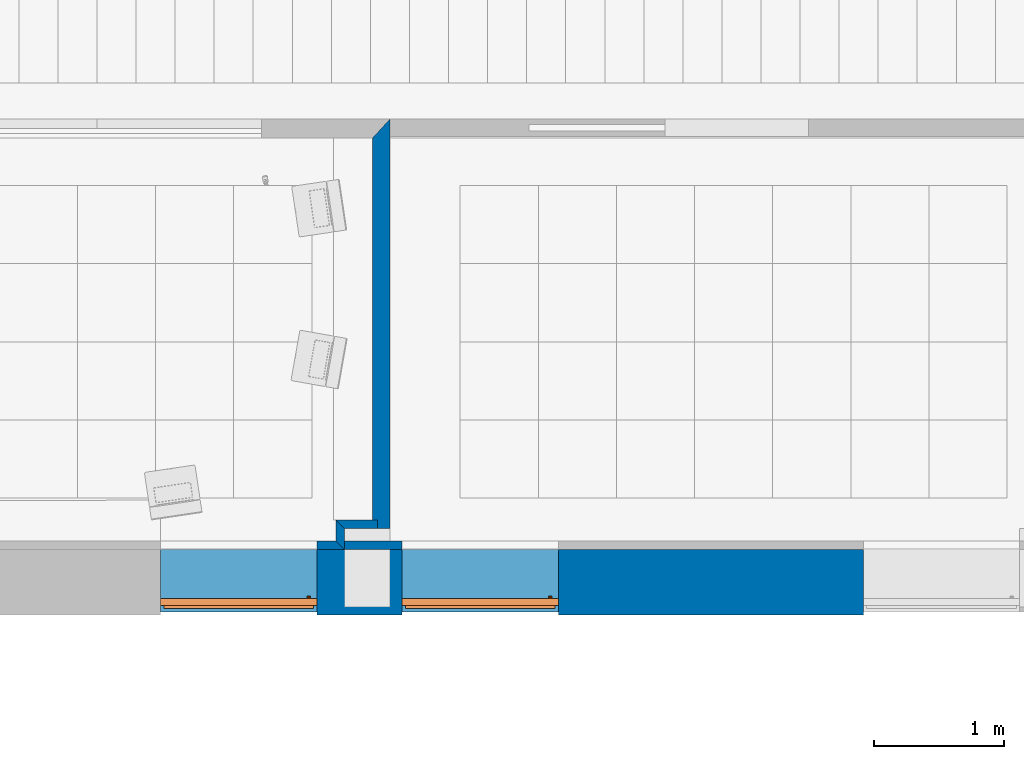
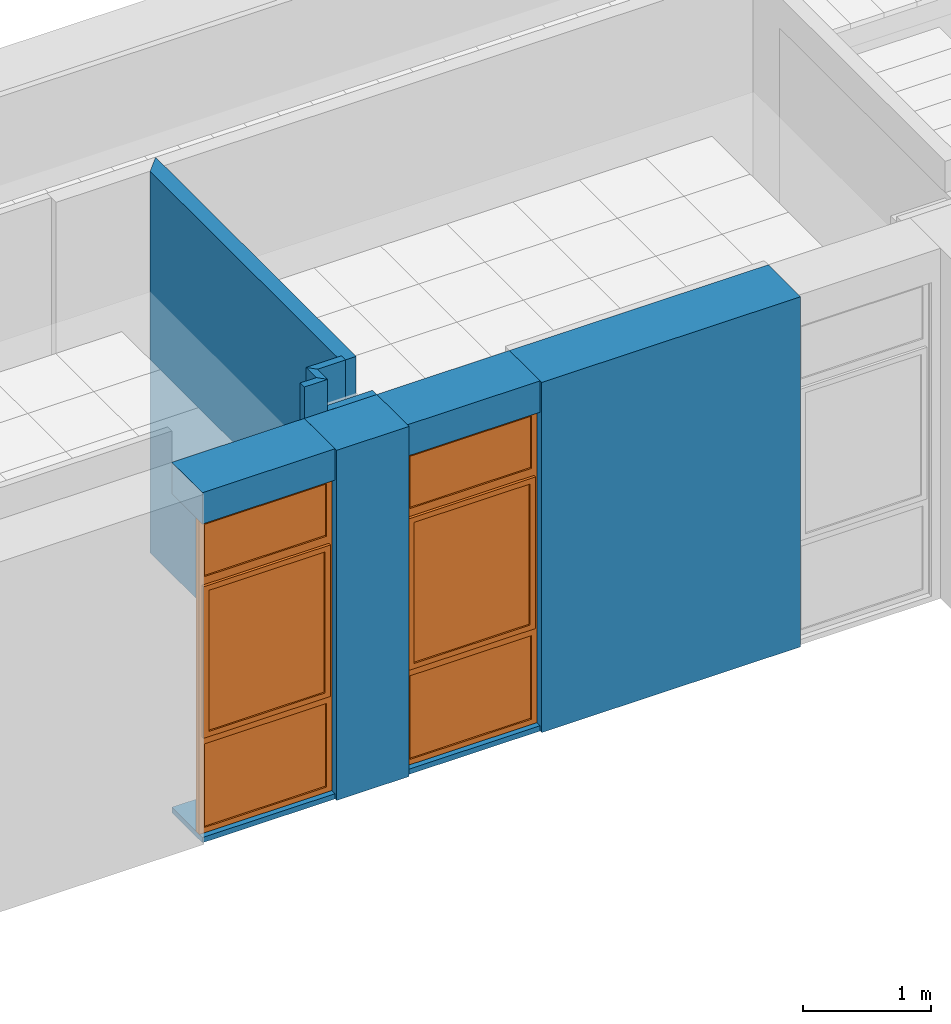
# One storey, part 38 of 60: 9 walls, 2 proxies, 2 openings.
"""IFC2X3 building model written with IfcOpenShell, lengths in millimetres."""

from ifc_helpers import new_model, entity, si_unit, converted_unit, derived_unit, money_unit, direction, frame, origin_with_axes, origin_2d_with_axis, place, context, subcontext, project, spatial, polyline, rectangle, outline, extrude, open_shell, faceted_brep, surface_model, source, transform, mapped, material, layer, layer_set, layer_usage, type_object, element, fill, save


model = new_model("IFC2X3")

# Units and contexts
model_context = context("Model", 3, precision=0.01, world=origin_with_axes(), true_north=direction((0.0, 1.0)))
body_context = subcontext(model_context, "Body", "Model", "MODEL_VIEW")
ifc_project = project(units=[si_unit("LENGTHUNIT", "METRE", prefix="MILLI"), si_unit("AREAUNIT", "SQUARE_METRE"), si_unit("VOLUMEUNIT", "CUBIC_METRE"), converted_unit("PLANEANGLEUNIT", "DEGREE", entity("IfcPlaneAngleMeasure", 0.0174532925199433), si_unit("PLANEANGLEUNIT", "RADIAN"), dimensions=[0, 0, 0, 0, 0, 0, 0]), money_unit("USD"), converted_unit("TIMEUNIT", "Year", entity("IfcTimeMeasure", 31557600.0), si_unit("TIMEUNIT", "SECOND"), dimensions=[0, 0, 1, 0, 0, 0, 0]), si_unit("MASSUNIT", "GRAM", prefix="KILO"), si_unit("THERMODYNAMICTEMPERATUREUNIT", "DEGREE_CELSIUS"), si_unit("LUMINOUSINTENSITYUNIT", "LUMEN"), si_unit("ENERGYUNIT", "JOULE", prefix="MEGA"), derived_unit("THERMALCONDUCTANCEUNIT", [(si_unit("POWERUNIT", "WATT"), 1), (si_unit("LENGTHUNIT", "METRE"), -1), (si_unit("THERMODYNAMICTEMPERATUREUNIT", "KELVIN"), -1)]), derived_unit("SPECIFICHEATCAPACITYUNIT", [(si_unit("ENERGYUNIT", "JOULE"), 1), (si_unit("MASSUNIT", "GRAM", prefix="KILO"), -1), (si_unit("THERMODYNAMICTEMPERATUREUNIT", "KELVIN"), -1)]), derived_unit("MASSDENSITYUNIT", [(si_unit("MASSUNIT", "GRAM", prefix="KILO"), 1), (si_unit("VOLUMEUNIT", "CUBIC_METRE"), -1)])], contexts=[model_context])

# Site, building, storey
site_placement = place(None, origin_with_axes())
site = spatial("IfcSite", under=ifc_project, at=site_placement, Name="Sitio", CompositionType="ELEMENT")
building_placement = place(site_placement, origin_with_axes())
building = spatial("IfcBuilding", under=site, at=building_placement, Name="Construcción", CompositionType="ELEMENT")
storey_placement = place(building_placement, frame((0.0, 0.0, 3650.0), z_axis=(0.0, 0.0, 1.0), x_axis=(1.0, 0.0, 0.0)))
storey = spatial("IfcBuildingStorey", under=building, at=storey_placement, Name="PLANTA 2ª", CompositionType="ELEMENT", Elevation=3650.0)

# Wall, opening, proxy
ifc_material_1 = material(Name="ARQ_AM246_Arrebossat_De_Guix")
ifc_layer_1 = layer(ifc_material_1, 10.0, ventilated="UNKNOWN")
ifc_material_2 = material(Name="ARQ_CE217_Gero")
ifc_layer_2 = layer(ifc_material_2, 120.0, ventilated="UNKNOWN")
ifc_material_3 = material(Name="ARQ_AI031_Aillament_Poliestireno expandido EPS")
ifc_layer_3 = layer(ifc_material_3, 120.0, ventilated="UNKNOWN")
ifc_material_4 = material(Name="ARQ_CE218_Ceramic")
ifc_layer_4 = layer(ifc_material_4, 220.0, ventilated="UNKNOWN")
ifc_layer_5 = layer(ifc_material_1, 10.0, ventilated="UNKNOWN")
ifc_layer_set_1 = layer_set([ifc_layer_1, ifc_layer_2, ifc_layer_3, ifc_layer_4, ifc_layer_5], Name="façana pati CR2 (ampit)")
ifc_layer_usage_1 = layer_usage(ifc_layer_set_1, "AXIS2", "POSITIVE", -480.0)
wall_type_1 = type_object("IfcWallType", Name="façana pati CR2 (ampit) 480", PredefinedType="NOTDEFINED")
wall_1_placement = place(storey_placement, frame((-6925.999673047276, -1193.975823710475, 0.0), z_axis=(0.0, 0.0, 1.0), x_axis=(1.0, 0.0, 0.0)))
wall_1 = element("IfcWallStandardCase", 1, at=wall_1_placement, inside=storey, type_object=wall_type_1, material=ifc_layer_usage_1, Name="MS-200", context=body_context, shape_type="SweptSolid", body=[
    extrude(outline(polyline([(0.0, -480.0), (1199.999999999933, -480.0), (1199.999999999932, 0.0), (0.0, 0.0), (0.0, -480.0)])), origin_with_axes(), (0.0, 0.0, 1.0), 3350.0),
])
opening_1_placement = place(wall_1_placement, frame((599.9999999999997, 0.0, 49.99999999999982), z_axis=(0.0, 0.0, 1.0), x_axis=(1.0, 0.0, 0.0)))
opening_1 = element("IfcOpeningElement", 2, at=opening_1_placement, cuts=wall_1, Name="F01", context=body_context, shape_type="SweptSolid", body=[
    extrude(rectangle(XDim=1199.999999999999, YDim=3000.0, at=origin_2d_with_axis()), frame((0.0, -429.9999999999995, 1500.0), z_axis=(0.0, -1.0, 0.0), x_axis=(-1.0, 0.0, 0.0)), (0.0, 0.0, -1.0), 909.9999999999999),
    extrude(rectangle(XDim=1199.999999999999, YDim=3000.0, at=origin_2d_with_axis()), frame((0.0, -429.9999999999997, 1500.0), z_axis=(0.0, 1.0, 0.0), x_axis=(-1.0, 0.0, 0.0)), (0.0, 0.0, -1.0), 530.0),
])
building_element_proxy_type = type_object("IfcBuildingElementProxyType", Name="Ventana Vertical Multi-Faja 27", PredefinedType="NOTDEFINED")
shared_shape = source(origin_with_axes(), body_context, "Body", "SurfaceModel", [
    faceted_brep([(-575.0, 0.0, 925.0), (-549.9999999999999, 0.0, 925.0), (-549.9999999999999, 0.0, 850.0), (-549.9999999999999, 0.0, 50.00000000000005), (-600.0, 0.0, 50.00000000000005), (-600.0, 0.0, 2950.0), (-549.9999999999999, 0.0, 2950.0), (-549.9999999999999, 0.0, 2450.0), (-549.9999999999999, 0.0, 2375.0), (-575.0, 0.0, 2375.0), (-575.0, -25.00000000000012, 925.0), (-549.9999999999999, -25.00000000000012, 925.0), (-549.9999999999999, -25.00000000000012, 950.0000000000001), (-549.9999999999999, -50.00000000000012, 950.0000000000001), (-549.9999999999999, -50.00000000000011, 850.0), (-549.9999999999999, -50.00000000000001, 50.00000000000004), (-600.0, -50.00000000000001, 50.00000000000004), (-600.0, -50.00000000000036, 2950.0), (-549.9999999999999, -50.00000000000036, 2950.0), (-549.9999999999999, -50.0000000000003, 2450.0), (-550.0, -25.00000000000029, 2375.0), (-549.9999999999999, -50.00000000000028, 2350.0), (-549.9999999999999, -25.00000000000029, 2350.0), (-575.0, -25.00000000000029, 2375.0)], [[[0, 1, 2, 3, 4, 5, 6, 7, 8, 9]], [[0, 10, 11, 1]], [[11, 12, 13, 14, 2, 1]], [[3, 2, 14, 15]], [[4, 3, 15, 16]], [[5, 4, 16, 17]], [[6, 5, 17, 18]], [[7, 6, 18, 19]], [[20, 8, 7, 19, 21, 22]], [[20, 23, 9, 8]], [[9, 23, 10, 0]], [[22, 12, 11, 10, 23, 20]], [[22, 21, 13, 12]], [[17, 16, 15, 14, 13, 21, 19, 18]]]),
    faceted_brep([(575.0, 0.0, 925.0), (575.0, 0.0, 2375.0), (549.9999999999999, 0.0, 2375.0), (549.9999999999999, 0.0, 2450.0), (549.9999999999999, 0.0, 2950.0), (600.0, 0.0, 2950.0), (600.0, 0.0, 50.00000000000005), (549.9999999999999, 0.0, 50.00000000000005), (549.9999999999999, 0.0, 850.0), (549.9999999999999, 0.0, 925.0), (575.0, -25.00000000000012, 925.0), (575.0, -25.00000000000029, 2375.0), (549.9999999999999, -25.00000000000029, 2375.0), (549.9999999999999, -25.00000000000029, 2350.0), (549.9999999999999, -50.00000000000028, 2350.0), (549.9999999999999, -50.0000000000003, 2450.0), (549.9999999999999, -50.00000000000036, 2950.0), (600.0, -50.00000000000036, 2950.0), (600.0, -50.00000000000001, 50.00000000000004), (549.9999999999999, -50.00000000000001, 50.00000000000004), (549.9999999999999, -50.00000000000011, 850.0), (550.0, -25.00000000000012, 925.0), (549.9999999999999, -50.00000000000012, 950.0000000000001), (549.9999999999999, -25.00000000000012, 950.0000000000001)], [[[0, 1, 2, 3, 4, 5, 6, 7, 8, 9]], [[0, 10, 11, 1]], [[1, 11, 12, 2]], [[12, 13, 14, 15, 3, 2]], [[4, 3, 15, 16]], [[5, 4, 16, 17]], [[6, 5, 17, 18]], [[7, 6, 18, 19]], [[8, 7, 19, 20]], [[21, 9, 8, 20, 22, 23]], [[9, 21, 10, 0]], [[12, 11, 10, 21, 23, 13]], [[23, 22, 14, 13]], [[14, 22, 20, 19, 18, 17, 16, 15]]]),
    faceted_brep([(-549.9999999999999, -25.00000000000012, 950.0000000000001), (-549.9999999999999, -50.00000000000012, 950.0000000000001), (549.9999999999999, -50.00000000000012, 950.0000000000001), (549.9999999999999, -25.00000000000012, 950.0000000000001), (-549.9999999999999, -25.00000000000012, 925.0), (-549.9999999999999, 0.0, 925.0), (-549.9999999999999, 0.0, 850.0), (-549.9999999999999, -50.00000000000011, 850.0), (549.9999999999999, -50.00000000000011, 850.0), (550.0, -25.00000000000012, 925.0), (549.9999999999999, 0.0, 850.0), (549.9999999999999, 0.0, 925.0)], [[[0, 1, 2, 3]], [[4, 5, 6, 7, 1, 0]], [[1, 7, 8, 2]], [[9, 3, 2, 8, 10, 11]], [[9, 4, 0, 3]], [[5, 4, 9, 11]], [[11, 10, 6, 5]], [[6, 10, 8, 7]]]),
    faceted_brep([(-549.9999999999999, 0.0, 2375.0), (-549.9999999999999, 0.0, 2450.0), (549.9999999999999, 0.0, 2450.0), (549.9999999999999, 0.0, 2375.0), (-550.0, -25.00000000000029, 2375.0), (-549.9999999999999, -25.00000000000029, 2350.0), (-549.9999999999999, -50.00000000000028, 2350.0), (-549.9999999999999, -50.0000000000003, 2450.0), (549.9999999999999, -50.0000000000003, 2450.0), (549.9999999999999, -25.00000000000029, 2375.0), (549.9999999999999, -50.00000000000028, 2350.0), (549.9999999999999, -25.00000000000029, 2350.0)], [[[0, 1, 2, 3]], [[4, 5, 6, 7, 1, 0]], [[2, 1, 7, 8]], [[9, 3, 2, 8, 10, 11]], [[9, 4, 0, 3]], [[11, 5, 4, 9]], [[11, 10, 6, 5]], [[7, 6, 10, 8]]]),
    faceted_brep([(549.9999999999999, -50.00000000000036, 2950.0), (549.9999999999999, 0.0, 2950.0), (600.0, 0.0, 2950.0), (600.0, -50.00000000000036, 2950.0), (-549.9999999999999, -50.00000000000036, 2950.0), (-549.9999999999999, 0.0, 2950.0), (-600.0, 0.0, 2950.0), (-600.0, 0.0, 3000.0), (600.0, 0.0, 3000.0), (600.0, -50.00000000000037, 3000.0), (-600.0, -50.00000000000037, 3000.0), (-600.0, -50.00000000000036, 2950.0)], [[[0, 1, 2, 3]], [[4, 5, 1, 0]], [[1, 5, 6, 7, 8, 2]], [[3, 2, 8, 9]], [[0, 3, 9, 10, 11, 4]], [[11, 6, 5, 4]], [[10, 7, 6, 11]], [[9, 8, 7, 10]]]),
    faceted_brep([(-549.9999999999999, -50.00000000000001, 50.0), (-549.9999999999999, 0.0, 50.00000000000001), (-600.0, 0.0, 50.00000000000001), (-600.0, -50.00000000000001, 50.0), (549.9999999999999, -50.00000000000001, 50.0), (549.9999999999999, 0.0, 50.00000000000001), (600.0, 0.0, 50.00000000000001), (600.0, 0.0, 0.0), (-600.0, 0.0, 0.0), (-600.0, -50.0, 0.0), (600.0, -50.0, 0.0), (600.0, -50.00000000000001, 50.0)], [[[0, 1, 2, 3]], [[4, 5, 1, 0]], [[1, 5, 6, 7, 8, 2]], [[3, 2, 8, 9]], [[0, 3, 9, 10, 11, 4]], [[11, 6, 5, 4]], [[10, 7, 6, 11]], [[9, 8, 7, 10]]]),
    surface_model("IfcShellBasedSurfaceModel", [(-549.9999999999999, -35.0, 49.99999999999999), (549.9999999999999, -35.0, 49.99999999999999), (549.9999999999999, -35.0000000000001, 850.0), (-549.9999999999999, -35.0000000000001, 850.0)], [open_shell([[[0, 1, 2, 3]]])]),
    surface_model("IfcShellBasedSurfaceModel", [(-549.9999999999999, -15.0, 49.99999999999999), (-549.9999999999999, -15.0000000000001, 850.0), (549.9999999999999, -15.0000000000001, 850.0), (549.9999999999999, -15.0, 49.99999999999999)], [open_shell([[[0, 1, 2, 3]]])]),
    faceted_brep([(-521.5, -25.00000000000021, 1677.0), (-522.8397459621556, -25.00000000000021, 1682.0), (-522.8397459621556, -37.00000000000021, 1682.0), (-521.5, -37.00000000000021, 1677.0), (-521.5, -25.0000000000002, 1623.0), (-522.8397459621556, -25.0000000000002, 1618.0), (-526.5, -25.0000000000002, 1614.339745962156), (-531.5, -25.0000000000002, 1613.0), (-543.5, -25.0000000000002, 1613.0), (-548.5, -25.0000000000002, 1614.339745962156), (-552.1602540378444, -25.0000000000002, 1618.0), (-553.5, -25.0000000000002, 1623.0), (-553.5, -25.00000000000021, 1677.0), (-552.1602540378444, -25.00000000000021, 1682.0), (-548.5, -25.00000000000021, 1685.660254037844), (-543.5, -25.00000000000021, 1687.0), (-531.5, -25.00000000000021, 1687.0), (-526.5, -25.00000000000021, 1685.660254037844), (-526.5, -37.00000000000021, 1685.660254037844), (-531.5, -37.00000000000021, 1687.0), (-543.5, -37.00000000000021, 1687.0), (-548.5, -37.00000000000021, 1685.660254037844), (-552.1602540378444, -37.00000000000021, 1682.0), (-553.5, -37.00000000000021, 1677.0), (-553.5, -37.0000000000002, 1623.0), (-552.1602540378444, -37.0000000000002, 1618.0), (-548.5, -37.0000000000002, 1614.339745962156), (-543.5, -37.0000000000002, 1613.0), (-531.5, -37.0000000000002, 1613.0), (-526.5, -37.0000000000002, 1614.339745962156), (-522.8397459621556, -37.0000000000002, 1618.0), (-521.5, -37.0000000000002, 1623.0)], [[[0, 1, 2, 3]], [[0, 4, 5, 6, 7, 8, 9, 10, 11, 12, 13, 14, 15, 16, 17, 1]], [[1, 17, 18, 2]], [[3, 2, 18, 19, 20, 21, 22, 23, 24, 25, 26, 27, 28, 29, 30, 31]], [[4, 0, 3, 31]], [[5, 4, 31, 30]], [[6, 5, 30, 29]], [[7, 6, 29, 28]], [[8, 7, 28, 27]], [[9, 8, 27, 26]], [[10, 9, 26, 25]], [[11, 10, 25, 24]], [[12, 11, 24, 23]], [[13, 12, 23, 22]], [[14, 13, 22, 21]], [[15, 14, 21, 20]], [[16, 15, 20, 19]], [[17, 16, 19, 18]]]),
    faceted_brep([(-537.5, -37.0000000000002, 1663.5), (-544.25, -37.0000000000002, 1661.69134295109), (-544.25, -61.00000000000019, 1661.69134295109), (-537.5, -61.00000000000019, 1663.5), (-530.75, -37.0000000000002, 1661.69134295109), (-525.80865704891, -37.0000000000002, 1656.75), (-524.0, -37.0000000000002, 1650.0), (-525.8086570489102, -37.0000000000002, 1643.25), (-530.75, -37.0000000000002, 1638.30865704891), (-537.5, -37.0000000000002, 1636.5), (-544.25, -37.0000000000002, 1638.30865704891), (-549.19134295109, -37.0000000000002, 1643.25), (-550.9999999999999, -37.0000000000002, 1650.0), (-549.1913429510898, -37.0000000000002, 1656.75), (-549.1913429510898, -61.00000000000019, 1656.75), (-550.9999999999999, -61.00000000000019, 1650.0), (-549.19134295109, -61.00000000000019, 1643.25), (-544.25, -61.00000000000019, 1638.30865704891), (-537.5, -61.00000000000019, 1636.5), (-530.75, -61.00000000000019, 1638.30865704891), (-525.8086570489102, -61.00000000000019, 1643.25), (-524.0, -61.00000000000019, 1650.0), (-525.80865704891, -61.00000000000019, 1656.75), (-530.75, -61.00000000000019, 1661.69134295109)], [[[0, 1, 2, 3]], [[0, 4, 5, 6, 7, 8, 9, 10, 11, 12, 13, 1]], [[1, 13, 14, 2]], [[3, 2, 14, 15, 16, 17, 18, 19, 20, 21, 22, 23]], [[4, 0, 3, 23]], [[5, 4, 23, 22]], [[6, 5, 22, 21]], [[7, 6, 21, 20]], [[8, 7, 20, 19]], [[9, 8, 19, 18]], [[10, 9, 18, 17]], [[11, 10, 17, 16]], [[12, 11, 16, 15]], [[13, 12, 15, 14]]]),
    faceted_brep([(-526.0, -61.00000000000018, 1543.0), (-537.5, -61.00000000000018, 1540.0), (-548.9999999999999, -61.00000000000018, 1543.0), (-550.9999999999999, -61.00000000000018, 1546.0), (-550.9999999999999, -61.00000000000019, 1650.0), (-549.1913429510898, -61.00000000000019, 1656.75), (-544.25, -61.00000000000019, 1661.69134295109), (-537.5, -61.00000000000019, 1663.5), (-530.75, -61.00000000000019, 1661.69134295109), (-525.80865704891, -61.00000000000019, 1656.75), (-524.0, -61.00000000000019, 1650.0), (-524.0, -61.00000000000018, 1546.0), (-525.9999999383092, -69.00000000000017, 1543.000000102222), (-537.499999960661, -69.00000000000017, 1539.999999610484), (-548.9999999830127, -69.00000000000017, 1543.000000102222), (-551.0000003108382, -69.00000000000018, 1545.999999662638), (-551.0000003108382, -69.0000000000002, 1649.99999994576), (-549.1913429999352, -69.0000000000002, 1656.749999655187), (-544.2499996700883, -69.0000000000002, 1661.691342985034), (-537.499999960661, -69.0000000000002, 1663.500000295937), (-530.7500002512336, -69.0000000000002, 1661.691342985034), (-525.8086569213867, -69.0000000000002, 1656.749999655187), (-523.9999996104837, -69.0000000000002, 1649.99999994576), (-523.9999996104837, -69.00000000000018, 1545.999999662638), (-527.8625374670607, -71.99999956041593, 1545.61451963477), (-537.499999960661, -71.99999956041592, 1543.100398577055), (-547.1374624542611, -71.99999956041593, 1545.61451963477), (-548.0000007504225, -71.99999956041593, 1546.908326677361), (-548.0000007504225, -71.99999956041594, 1649.605042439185), (-546.5016170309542, -71.99999956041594, 1655.197085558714), (-542.6970855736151, -71.99999956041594, 1659.001617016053), (-537.499999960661, -71.99999956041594, 1660.394172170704), (-532.3029143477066, -71.99999956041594, 1659.001617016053), (-528.4983828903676, -71.99999956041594, 1655.197085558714), (-526.9999991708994, -71.99999956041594, 1649.605042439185), (-526.9999991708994, -71.99999956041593, 1546.908326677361)], [[[0, 1, 2, 3, 4, 5, 6, 7, 8, 9, 10, 11]], [[1, 0, 12, 13]], [[2, 1, 13, 14]], [[3, 2, 14, 15]], [[4, 3, 15, 16]], [[5, 4, 16, 17]], [[6, 5, 17, 18]], [[7, 6, 18, 19]], [[8, 7, 19, 20]], [[9, 8, 20, 21]], [[10, 9, 21, 22]], [[11, 10, 22, 23]], [[0, 11, 23, 12]], [[13, 12, 24, 25]], [[14, 13, 25, 26]], [[15, 14, 26, 27]], [[16, 15, 27, 28]], [[17, 16, 28, 29]], [[18, 17, 29, 30]], [[19, 18, 30, 31]], [[20, 19, 31, 32]], [[21, 20, 32, 33]], [[22, 21, 33, 34]], [[23, 22, 34, 35]], [[12, 23, 35, 24]], [[26, 25, 24, 35, 34, 33, 32, 31, 30, 29, 28, 27]]]),
    faceted_brep([(-524.9999999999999, -25.00000000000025, 2325.0), (-524.9999999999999, 24.99999999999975, 2325.0), (-575.0, 24.99999999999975, 2325.0), (-575.0, -25.00000000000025, 2325.0), (-524.9999999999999, -25.00000000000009, 975.0000000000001), (-524.9999999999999, 24.99999999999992, 975.0000000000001), (-575.0, 24.99999999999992, 975.0000000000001), (-575.0, -25.00000000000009, 975.0000000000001)], [[[0, 1, 2, 3]], [[4, 5, 1, 0]], [[1, 5, 6, 2]], [[3, 2, 6, 7]], [[0, 3, 7, 4]], [[7, 6, 5, 4]]]),
    faceted_brep([(524.9999999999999, -25.00000000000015, 975.0000000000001), (524.9999999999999, 24.99999999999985, 975.0000000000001), (575.0, 24.99999999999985, 975.0000000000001), (575.0, -25.00000000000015, 975.0000000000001), (524.9999999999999, -25.00000000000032, 2325.0), (524.9999999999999, 24.99999999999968, 2325.0), (575.0, 24.99999999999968, 2325.0), (575.0, -25.00000000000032, 2325.0)], [[[0, 1, 2, 3]], [[4, 5, 1, 0]], [[1, 5, 6, 2]], [[3, 2, 6, 7]], [[0, 3, 7, 4]], [[7, 6, 5, 4]]]),
    faceted_brep([(575.0, -25.00000000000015, 925.0), (575.0, 24.99999999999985, 925.0), (575.0, 24.99999999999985, 975.0000000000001), (575.0, -25.00000000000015, 975.0000000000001), (-575.0, -25.00000000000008, 925.0), (-575.0, 24.99999999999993, 925.0), (-575.0, 24.99999999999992, 975.0000000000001), (-524.9999999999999, 24.99999999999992, 975.0000000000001), (524.9999999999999, 24.99999999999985, 975.0000000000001), (524.9999999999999, -25.00000000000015, 975.0000000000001), (-524.9999999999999, -25.00000000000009, 975.0000000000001), (-575.0, -25.00000000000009, 975.0000000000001)], [[[0, 1, 2, 3]], [[4, 5, 1, 0]], [[1, 5, 6, 7, 8, 2]], [[3, 2, 8, 9]], [[0, 3, 9, 10, 11, 4]], [[11, 6, 5, 4]], [[10, 7, 6, 11]], [[9, 8, 7, 10]]]),
    faceted_brep([(-575.0, -25.00000000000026, 2375.0), (-575.0, 24.99999999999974, 2375.0), (-575.0, 24.99999999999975, 2325.0), (-575.0, -25.00000000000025, 2325.0), (575.0, -25.00000000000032, 2375.0), (575.0, 24.99999999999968, 2375.0), (575.0, 24.99999999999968, 2325.0), (524.9999999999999, 24.99999999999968, 2325.0), (-524.9999999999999, 24.99999999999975, 2325.0), (-524.9999999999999, -25.00000000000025, 2325.0), (524.9999999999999, -25.00000000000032, 2325.0), (575.0, -25.00000000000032, 2325.0)], [[[0, 1, 2, 3]], [[4, 5, 1, 0]], [[1, 5, 6, 7, 8, 2]], [[3, 2, 8, 9]], [[0, 3, 9, 10, 11, 4]], [[11, 6, 5, 4]], [[10, 7, 6, 11]], [[9, 8, 7, 10]]]),
    surface_model("IfcShellBasedSurfaceModel", [(-524.9999999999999, -10.00000000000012, 975.0000000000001), (524.9999999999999, -10.00000000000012, 975.0000000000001), (524.9999999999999, -10.00000000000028, 2325.0), (-524.9999999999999, -10.00000000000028, 2325.0)], [open_shell([[[0, 1, 2, 3]]])]),
    surface_model("IfcShellBasedSurfaceModel", [(-524.9999999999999, 9.999999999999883, 975.0000000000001), (-524.9999999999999, 9.99999999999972, 2325.0), (524.9999999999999, 9.99999999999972, 2325.0), (524.9999999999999, 9.999999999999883, 975.0000000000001)], [open_shell([[[0, 1, 2, 3]]])]),
    surface_model("IfcShellBasedSurfaceModel", [(-549.9999999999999, -35.0000000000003, 2450.0), (549.9999999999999, -35.0000000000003, 2450.0), (549.9999999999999, -35.00000000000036, 2950.0), (-549.9999999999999, -35.00000000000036, 2950.0)], [open_shell([[[0, 1, 2, 3]]])]),
    surface_model("IfcShellBasedSurfaceModel", [(-549.9999999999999, -15.0000000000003, 2450.0), (-549.9999999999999, -15.00000000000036, 2950.0), (549.9999999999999, -15.00000000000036, 2950.0), (549.9999999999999, -15.0000000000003, 2450.0)], [open_shell([[[0, 1, 2, 3]]])]),
])
proxy_1_placement = place(opening_1_placement, frame((599.9999999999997, 0.0, 0.0), z_axis=(0.0, 0.0, 1.0), x_axis=(-1.0, 0.0, 0.0)))
proxy_1 = element("IfcBuildingElementProxy", 3, at=proxy_1_placement, inside=storey, type_object=building_element_proxy_type, Name="F01", context=body_context, shape_type="MappedRepresentation", body=[
    mapped(shared_shape, transform((599.9999999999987, 429.9999999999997, 0.0))),
])
fill(opening_1, proxy_1)

ifc_layer_usage_2 = layer_usage(ifc_layer_set_1, "AXIS2", "POSITIVE", -480.0)
wall_2_placement = place(storey_placement, frame((-8781.931355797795, -1193.975823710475, 0.0), z_axis=(0.0, 0.0, 1.0), x_axis=(1.0, 0.0, 0.0)))
wall_2 = element("IfcWallStandardCase", 4, at=wall_2_placement, inside=storey, type_object=wall_type_1, material=ifc_layer_usage_2, Name="MS-200", context=body_context, shape_type="SweptSolid", body=[
    extrude(outline(polyline([(0.0, -480.0), (1199.999999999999, -480.0), (1199.999999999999, 0.0), (0.0, 0.0), (0.0, -480.0)])), origin_with_axes(), (0.0, 0.0, 1.0), 3350.0),
])
opening_2_placement = place(wall_2_placement, frame((599.9999999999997, 0.0, 49.99999999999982), z_axis=(0.0, 0.0, 1.0), x_axis=(1.0, 0.0, 0.0)))
opening_2 = element("IfcOpeningElement", 5, at=opening_2_placement, cuts=wall_2, Name="F01", context=body_context, shape_type="SweptSolid", body=[
    extrude(rectangle(XDim=1199.999999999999, YDim=3000.0, at=origin_2d_with_axis()), frame((0.0, -429.9999999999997, 1500.0), z_axis=(0.0, -1.0, 0.0), x_axis=(-1.0, 0.0, 0.0)), (0.0, 0.0, -1.0), 909.9999999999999),
    extrude(rectangle(XDim=1199.999999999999, YDim=3000.0, at=origin_2d_with_axis()), frame((0.0, -429.9999999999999, 1500.0), z_axis=(0.0, 1.0, 0.0), x_axis=(-1.0, 0.0, 0.0)), (0.0, 0.0, -1.0), 530.0),
])
proxy_2_placement = place(opening_2_placement, frame((599.9999999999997, 0.0, 0.0), z_axis=(0.0, 0.0, 1.0), x_axis=(-1.0, 0.0, 0.0)))
proxy_2 = element("IfcBuildingElementProxy", 6, at=proxy_2_placement, inside=storey, type_object=building_element_proxy_type, Name="F01", context=body_context, shape_type="MappedRepresentation", body=[
    mapped(shared_shape, transform((599.9999999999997, 429.9999999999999, 0.0))),
])
fill(opening_2, proxy_2)

# Walls
ifc_layer_6 = layer(ifc_material_2, 10.0, ventilated="UNKNOWN")
ifc_layer_7 = layer(ifc_material_2, 90.0, ventilated="UNKNOWN")
ifc_layer_8 = layer(ifc_material_3, 180.0, ventilated="UNKNOWN")
ifc_layer_9 = layer(ifc_material_4, 215.0, ventilated="UNKNOWN")
ifc_layer_10 = layer(ifc_material_1, 10.0, ventilated="UNKNOWN")
ifc_layer_set_2 = layer_set([ifc_layer_6, ifc_layer_7, ifc_layer_8, ifc_layer_9, ifc_layer_10], Name="façana pati CR2")
ifc_layer_usage_3 = layer_usage(ifc_layer_set_2, "AXIS2", "POSITIVE", -505.0)
wall_type_2 = type_object("IfcWallType", Name="façana pati CR2 505", PredefinedType="NOTDEFINED")
wall_3_placement = place(storey_placement, frame((-5725.999673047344, -1193.975823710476, 0.0), z_axis=(0.0, 0.0, 1.0), x_axis=(1.0, 0.0, 0.0)))
element("IfcWallStandardCase", 7, at=wall_3_placement, inside=storey, type_object=wall_type_2, material=ifc_layer_usage_3, Name="MS-200", context=body_context, shape_type="SweptSolid", body=[
    extrude(outline(polyline([(0.0, -505.0000000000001), (2342.56831724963, -504.9999999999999), (2342.56831724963, 0.0), (0.0, 0.0), (0.0, -505.0000000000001)])), origin_with_axes(), (0.0, 0.0, 1.0), 3350.0),
])
ifc_layer_usage_4 = layer_usage(ifc_layer_set_2, "AXIS2", "POSITIVE", -505.0)
wall_4_placement = place(storey_placement, frame((-7581.931355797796, -1193.975823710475, 0.0), z_axis=(0.0, 0.0, 1.0), x_axis=(1.0, 0.0, 0.0)))
element("IfcWallStandardCase", 8, at=wall_4_placement, inside=storey, type_object=wall_type_2, material=ifc_layer_usage_4, Name="MS-200", context=body_context, shape_type="SweptSolid", body=[
    extrude(outline(polyline([(0.0, -504.9999999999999), (655.9316827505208, -505.0000000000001), (655.9316827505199, 0.0), (0.0, 0.0), (0.0, -504.9999999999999)])), origin_with_axes(), (0.0, 0.0, 1.0), 3350.0),
])
ifc_material_5 = material(Name="Panel de Yeso Laminado")
ifc_layer_11 = layer(ifc_material_5, 13.0, ventilated="UNKNOWN")
ifc_layer_12 = layer(ifc_material_5, 13.0, ventilated="UNKNOWN")
ifc_material_6 = material(Name="ARQ_AI033_Aillament_Llana_De_Roca")
ifc_layer_13 = layer(ifc_material_6, 70.0, ventilated="UNKNOWN")
ifc_layer_14 = layer(ifc_material_5, 13.0, ventilated="UNKNOWN")
ifc_layer_15 = layer(ifc_material_5, 13.0, ventilated="UNKNOWN")
ifc_material_7 = material(Name="ARQ_EN271_Camara_Aire")
ifc_layer_16 = layer(ifc_material_7, 6.0, ventilated="UNKNOWN")
ifc_material_8 = material(Name="ARQ_FU093_Panellat_HPL")
ifc_layer_17 = layer(ifc_material_8, 6.0, ventilated="UNKNOWN")
ifc_layer_set_3 = layer_set([ifc_layer_11, ifc_layer_12, ifc_layer_13, ifc_layer_14, ifc_layer_15, ifc_layer_16, ifc_layer_17], Name="CR Pladur 70 HPL 1 cara")
ifc_layer_usage_5 = layer_usage(ifc_layer_set_3, "AXIS2", "NEGATIVE", 0.0)
wall_type_3 = type_object("IfcWallType", Name="CR Pladur 70 HPL 1 cara 134", PredefinedType="NOTDEFINED")
wall_5_placement = place(storey_placement, frame((-7021.107268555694, 1963.554870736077, 0.0), z_axis=(0.0, 0.0, 1.0), x_axis=(0.0, -1.0, 0.0)))
element("IfcWallStandardCase", 9, at=wall_5_placement, inside=storey, type_object=wall_type_3, material=ifc_layer_usage_5, Name="MS-211", context=body_context, shape_type="SweptSolid", body=[
    extrude(outline(polyline([(0.0, -134.0000000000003), (2997.530856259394, -134.0000000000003), (2997.530856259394, 0.0), (-146.0000000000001, 0.0), (0.0, -134.0000000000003)])), origin_with_axes(), (0.0, 0.0, 1.0), 3650.0),
])
ifc_layer_18 = layer(ifc_material_8, 6.0, ventilated="UNKNOWN")
ifc_layer_19 = layer(ifc_material_7, 6.0, ventilated="UNKNOWN")
ifc_layer_20 = layer(ifc_material_5, 13.0, ventilated="UNKNOWN")
ifc_layer_21 = layer(ifc_material_6, 40.0, ventilated="UNKNOWN")
ifc_layer_set_4 = layer_set([ifc_layer_18, ifc_layer_19, ifc_layer_20, ifc_layer_21], Name="Pladur Tras 40 / 1N +HPL")
ifc_layer_usage_6 = layer_usage(ifc_layer_set_4, "AXIS2", "POSITIVE", -65.0)
wall_type_4 = type_object("IfcWallType", Name="Pladur Tras 40 / 1N +HPL 65", PredefinedType="NOTDEFINED")
wall_6_placement = place(storey_placement, frame((-7117.107268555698, -1033.975985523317, 0.0), z_axis=(0.0, 0.0, 1.0), x_axis=(-1.0, 0.0, 0.0)))
element("IfcWallStandardCase", 10, at=wall_6_placement, inside=storey, type_object=wall_type_4, material=ifc_layer_usage_6, Name="MS-243", context=body_context, shape_type="SweptSolid", body=[
    extrude(outline(polyline([(0.0, -64.99999999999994), (319.0017363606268, -64.99999999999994), (254.0017363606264, 0.0), (0.0, 0.0), (0.0, -64.99999999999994)])), origin_with_axes(), (0.0, 0.0, 1.0), 3650.0),
])
ifc_layer_usage_7 = layer_usage(ifc_layer_set_4, "AXIS2", "POSITIVE", -65.0)
wall_7_placement = place(storey_placement, frame((-7371.109004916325, -1033.975985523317, 0.0), z_axis=(0.0, 0.0, 1.0), x_axis=(0.0, -1.0, 0.0)))
element("IfcWallStandardCase", 11, at=wall_7_placement, inside=storey, type_object=wall_type_4, material=ifc_layer_usage_7, Name="MS-243", context=body_context, shape_type="SweptSolid", body=[
    extrude(outline(polyline([(-64.99999999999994, -65.0000000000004), (159.9998381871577, -65.0000000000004), (159.9998381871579, 0.0), (0.0, 0.0), (-64.99999999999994, -65.0000000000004)])), origin_with_axes(), (0.0, 0.0, 1.0), 3650.0),
])
ifc_layer_usage_8 = layer_usage(ifc_layer_set_4, "AXIS2", "POSITIVE", -65.0)
wall_8_placement = place(storey_placement, frame((-7371.109004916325, -1193.975823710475, 0.0), z_axis=(0.0, 0.0, 1.0), x_axis=(-1.0, 0.0, 0.0)))
element("IfcWallStandardCase", 12, at=wall_8_placement, inside=storey, type_object=wall_type_4, material=ifc_layer_usage_8, Name="MS-243", context=body_context, shape_type="SweptSolid", body=[
    extrude(outline(polyline([(65.0000000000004, -64.99999999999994), (210.8223508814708, -64.99999999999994), (210.8223508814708, 0.0), (0.0, 0.0), (65.0000000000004, -64.99999999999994)])), origin_with_axes(), (0.0, 0.0, 1.0), 3650.0),
])
ifc_layer_22 = layer(ifc_material_5, 13.0, ventilated="UNKNOWN")
ifc_layer_23 = layer(ifc_material_5, 13.0, ventilated="UNKNOWN")
ifc_layer_24 = layer(ifc_material_6, 40.0, ventilated="UNKNOWN")
ifc_layer_set_5 = layer_set([ifc_layer_22, ifc_layer_23, ifc_layer_24], Name="Pladur Tras 40 / 2N")
ifc_layer_usage_9 = layer_usage(ifc_layer_set_5, "AXIS2", "NEGATIVE", 0.0)
wall_type_5 = type_object("IfcWallType", Name="Pladur Tras 40 / 2N 66", PredefinedType="NOTDEFINED")
wall_9_placement = place(storey_placement, frame((-7581.931355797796, -1128.975823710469, 0.0), z_axis=(0.0, 0.0, 1.0), x_axis=(1.0, 0.0, 0.0)))
element("IfcWallStandardCase", 13, at=wall_9_placement, inside=storey, type_object=wall_type_5, material=ifc_layer_usage_9, Name="MS-241", context=body_context, shape_type="SweptSolid", body=[
    extrude(outline(polyline([(0.0, -66.00000000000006), (655.9316827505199, -66.00000000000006), (655.9316827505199, 0.0), (0.0, 0.0), (0.0, -66.00000000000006)])), origin_with_axes(), (0.0, 0.0, 1.0), 3350.0),
])

save(model, "model.ifc")
